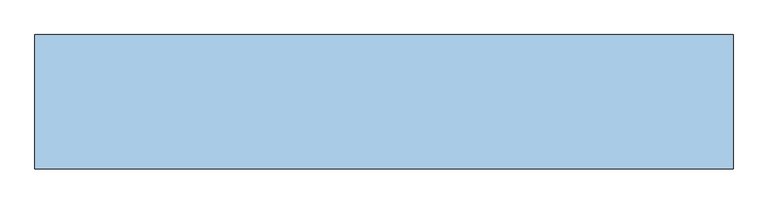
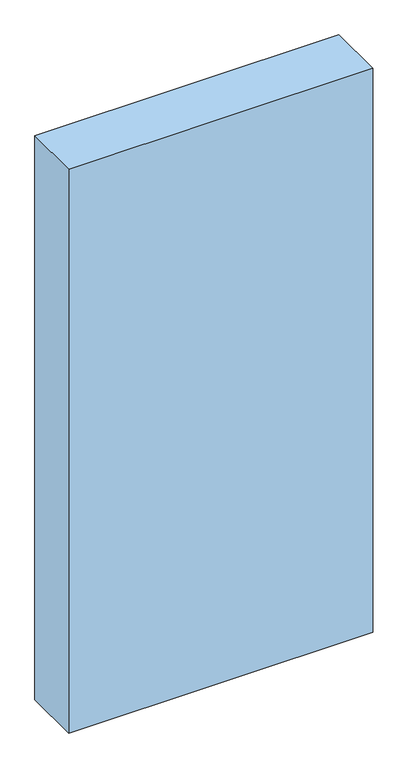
"""IFC4 building model written with IfcOpenShell, lengths in millimetres: window geometry, Dr_Проем-Четверти_об модель : ОК."""

from ifc_helpers import new_model, si_unit, frame, origin, place, context, project, spatial, polyline, outline, extrude, source, transform, mapped, element, save


def window_588b83ed(model_context):
    return source(origin(), model_context, "Body", "SweptSolid", [
        extrude(outline(polyline([(655.0, 100.0), (655.0, -100.0), (-385.0, -100.0), (-385.0, 100.0), (655.0, 100.0)])), frame((0.0, 0.0, -70.0), z_axis=(0.0, 0.0, 1.0), x_axis=(1.0, 0.0, 0.0)), (0.0, 0.0, 1.0), 2040.0),
    ])


if __name__ == "__main__":
    model = new_model("IFC4")
    model_context = context("Model", 3, world=origin())
    ifc_project = project(units=[si_unit("LENGTHUNIT", "METRE", prefix="MILLI")], contexts=[model_context])
    site = spatial("IfcSite", under=ifc_project)
    building = spatial("IfcBuilding", under=site)
    placement = place(None, origin())
    window_shape = window_588b83ed(model_context)
    element("IfcWindow", 1, ObjectType="Dr_Проем-Четверти_об модель : ОК", at=placement, inside=building, context=model_context, shape_type="MappedRepresentation", body=[
        mapped(window_shape, transform((0.0, 0.0, 0.0), x_axis=(1.0, 0.0, 0.0), y_axis=(0.0, 1.0, 0.0), z_axis=(0.0, 0.0, 1.0))),
    ])
    save(model, "model.ifc")
